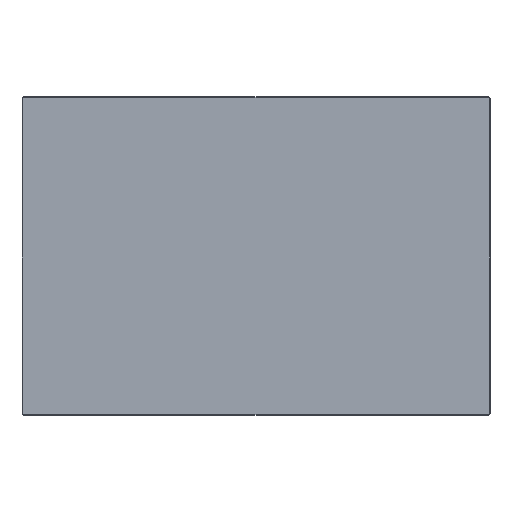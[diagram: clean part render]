
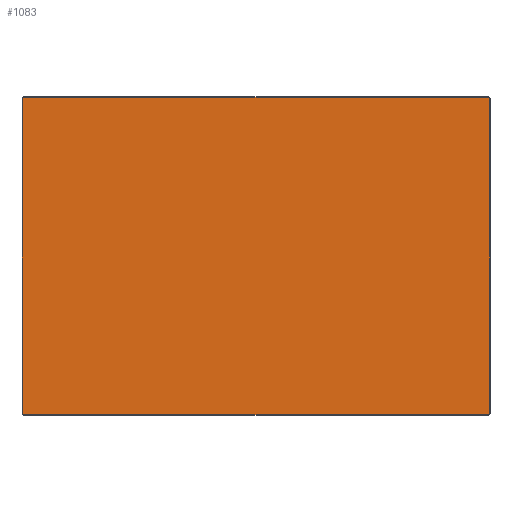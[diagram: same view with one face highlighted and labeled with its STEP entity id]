
A CAD part, top view. The second image highlights one B-rep face of the part: STEP entity #1083.
In plain terms, the highlighted planar face has unit normal (0, 0, 1).
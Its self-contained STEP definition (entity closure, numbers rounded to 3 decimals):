
#597=PLANE('',#10209);
#1083=ADVANCED_FACE('',(#1660),#597,.T.);
#1660=FACE_OUTER_BOUND('',#2182,.T.);
#2182=EDGE_LOOP('',(#4775,#4776,#4777,#4778,#4779,#4780,#4781,#4782));
#4775=ORIENTED_EDGE('',*,*,#7094,.T.);
#4776=ORIENTED_EDGE('',*,*,#7088,.T.);
#4777=ORIENTED_EDGE('',*,*,#7090,.T.);
#4778=ORIENTED_EDGE('',*,*,#7096,.T.);
#4779=ORIENTED_EDGE('',*,*,#7102,.T.);
#4780=ORIENTED_EDGE('',*,*,#7108,.T.);
#4781=ORIENTED_EDGE('',*,*,#7106,.T.);
#4782=ORIENTED_EDGE('',*,*,#7100,.T.);
#5767=VERTEX_POINT('',#15500);
#5770=VERTEX_POINT('',#15505);
#5772=VERTEX_POINT('',#15510);
#5773=VERTEX_POINT('',#15515);
#5776=VERTEX_POINT('',#15522);
#5777=VERTEX_POINT('',#15527);
#5780=VERTEX_POINT('',#15534);
#5781=VERTEX_POINT('',#15539);
#7088=EDGE_CURVE('',#5767,#5770,#7295,.T.);
#7090=EDGE_CURVE('',#5770,#5772,#8407,.T.);
#7094=EDGE_CURVE('',#5773,#5767,#8410,.T.);
#7096=EDGE_CURVE('',#5772,#5776,#7299,.T.);
#7100=EDGE_CURVE('',#5777,#5773,#7303,.T.);
#7102=EDGE_CURVE('',#5776,#5780,#8411,.T.);
#7106=EDGE_CURVE('',#5781,#5777,#8414,.T.);
#7108=EDGE_CURVE('',#5780,#5781,#7307,.T.);
#7295=CIRCLE('',#10179,2.5);
#7299=CIRCLE('',#10186,2.5);
#7303=CIRCLE('',#10191,2.5);
#7307=CIRCLE('',#10198,2.5);
#8407=LINE('',#15511,#9539);
#8410=LINE('',#15518,#9542);
#8411=LINE('',#15535,#9543);
#8414=LINE('',#15542,#9546);
#9539=VECTOR('',#12437,1.);
#9542=VECTOR('',#12444,1.);
#9543=VECTOR('',#12465,1.);
#9546=VECTOR('',#12472,1.);
#10179=AXIS2_PLACEMENT_3D('',#15506,#12431,#12432);
#10186=AXIS2_PLACEMENT_3D('',#15523,#12449,#12450);
#10191=AXIS2_PLACEMENT_3D('',#15530,#12459,#12460);
#10198=AXIS2_PLACEMENT_3D('',#15545,#12477,#12478);
#10209=AXIS2_PLACEMENT_3D('',#15564,#12507,#12508);
#12431=DIRECTION('',(0.,0.,1.));
#12432=DIRECTION('',(1.,0.,0.));
#12437=DIRECTION('',(0.,1.,0.));
#12444=DIRECTION('',(1.,0.,0.));
#12449=DIRECTION('',(0.,0.,1.));
#12450=DIRECTION('',(1.,0.,0.));
#12459=DIRECTION('',(0.,0.,1.));
#12460=DIRECTION('',(1.,0.,0.));
#12465=DIRECTION('',(-1.,0.,0.));
#12472=DIRECTION('',(0.,-1.,0.));
#12477=DIRECTION('',(0.,0.,1.));
#12478=DIRECTION('',(1.,0.,0.));
#12507=DIRECTION('',(0.,0.,1.));
#12508=DIRECTION('',(1.,0.,0.));
#15500=CARTESIAN_POINT('',(635.,-19.55,18.5));
#15505=CARTESIAN_POINT('',(637.5,-17.05,18.5));
#15506=CARTESIAN_POINT('',(635.,-17.05,18.5));
#15510=CARTESIAN_POINT('',(637.5,486.95,18.5));
#15511=CARTESIAN_POINT('',(637.5,234.95,18.5));
#15515=CARTESIAN_POINT('',(-109.,-19.55,18.5));
#15518=CARTESIAN_POINT('',(263.,-19.55,18.5));
#15522=CARTESIAN_POINT('',(635.,489.45,18.5));
#15523=CARTESIAN_POINT('',(635.,486.95,18.5));
#15527=CARTESIAN_POINT('',(-111.5,-17.05,18.5));
#15530=CARTESIAN_POINT('',(-109.,-17.05,18.5));
#15534=CARTESIAN_POINT('',(-109.,489.45,18.5));
#15535=CARTESIAN_POINT('',(263.,489.45,18.5));
#15539=CARTESIAN_POINT('',(-111.5,486.95,18.5));
#15542=CARTESIAN_POINT('',(-111.5,234.95,18.5));
#15545=CARTESIAN_POINT('',(-109.,486.95,18.5));
#15564=CARTESIAN_POINT('',(263.,234.95,18.5));
